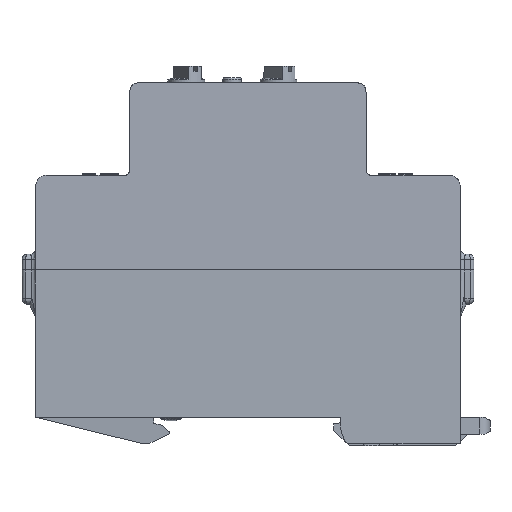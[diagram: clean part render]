
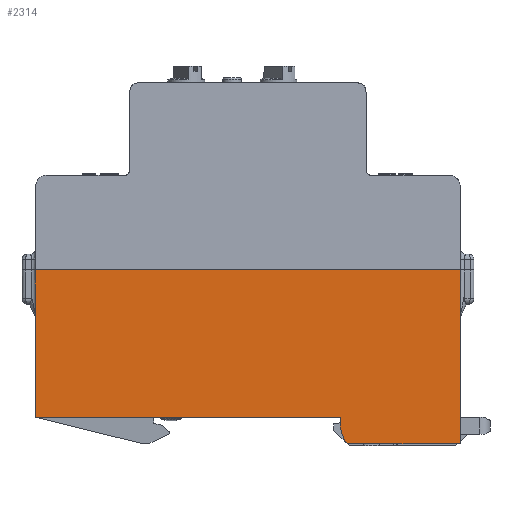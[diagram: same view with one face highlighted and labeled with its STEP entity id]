
A CAD part, left-side view. The second image highlights one B-rep face of the part: STEP entity #2314.
In plain terms, the highlighted planar face has unit normal (-1, 0, -0.006) as drawn and (0, -0.006, -1) by its records, which use the part's own axes.
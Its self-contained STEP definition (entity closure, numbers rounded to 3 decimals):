
#2314=ADVANCED_FACE('',(#30466),#30468,.T.);
#30466=FACE_BOUND('',#30467,.T.);
#30467=EDGE_LOOP('',(#60260,#60261,#60262,#60263,#60264,#60265,#60266,#60267,#60268));
#30468=PLANE('',#30469);
#30469=AXIS2_PLACEMENT_3D('',#30470,#30471,#30472);
#30470=CARTESIAN_POINT('',(-40.35,28.,-17.5));
#30471=DIRECTION('',(0.,-0.006,-1.));
#30472=DIRECTION('',(0.,1.,-0.006));
#60260=ORIENTED_EDGE('',*,*,#78281,.F.);
#60261=ORIENTED_EDGE('',*,*,#78282,.T.);
#60262=ORIENTED_EDGE('',*,*,#78283,.T.);
#60263=ORIENTED_EDGE('',*,*,#78284,.T.);
#60264=ORIENTED_EDGE('',*,*,#77668,.T.);
#60265=ORIENTED_EDGE('',*,*,#78063,.F.);
#60266=ORIENTED_EDGE('',*,*,#77499,.F.);
#60267=ORIENTED_EDGE('',*,*,#78017,.T.);
#60268=ORIENTED_EDGE('',*,*,#77830,.F.);
#77499=EDGE_CURVE('',#86676,#86678,#86679,.T.);
#77668=EDGE_CURVE('',#86999,#86997,#87000,.T.);
#77830=EDGE_CURVE('',#87283,#87285,#87286,.T.);
#78017=EDGE_CURVE('',#86676,#87285,#87606,.T.);
#78063=EDGE_CURVE('',#86678,#86997,#87693,.T.);
#78281=EDGE_CURVE('',#88078,#87283,#88079,.T.);
#78282=EDGE_CURVE('',#88078,#88080,#88081,.T.);
#78283=EDGE_CURVE('',#88080,#88082,#88083,.T.);
#78284=EDGE_CURVE('',#88082,#86999,#88084,.T.);
#86676=VERTEX_POINT('',#102471);
#86678=VERTEX_POINT('',#102475);
#86679=LINE('',#102476,#102477);
#86997=VERTEX_POINT('',#103155);
#86999=VERTEX_POINT('',#103159);
#87000=LINE('',#103160,#103161);
#87283=VERTEX_POINT('',#103771);
#87285=VERTEX_POINT('',#103775);
#87286=LINE('',#103776,#103777);
#87606=LINE('',#104628,#104629);
#87693=LINE('',#104878,#104879);
#88078=VERTEX_POINT('',#105893);
#88079=LINE('',#105894,#105895);
#88080=VERTEX_POINT('',#105897);
#88081=(BOUNDED_CURVE()B_SPLINE_CURVE(3,
(#105898,#105899,#105900,#105901),
.UNSPECIFIED.,.F.,.F.)B_SPLINE_CURVE_WITH_KNOTS((4,4),
(0.,1.),
.UNSPECIFIED.)CURVE()GEOMETRIC_REPRESENTATION_ITEM()RATIONAL_B_SPLINE_CURVE((1.,
0.99,0.99,1.))REPRESENTATION_ITEM(''));
#88082=VERTEX_POINT('',#105902);
#88083=LINE('',#105903,#105904);
#88084=(BOUNDED_CURVE()B_SPLINE_CURVE(3,
(#105906,#105907,#105908,#105909),
.UNSPECIFIED.,.F.,.F.)B_SPLINE_CURVE_WITH_KNOTS((4,4),
(0.,1.),
.UNSPECIFIED.)CURVE()GEOMETRIC_REPRESENTATION_ITEM()RATIONAL_B_SPLINE_CURVE((1.,
0.879,0.879,1.))REPRESENTATION_ITEM(''));
#102471=CARTESIAN_POINT('',(40.35,28.,-17.5));
#102475=CARTESIAN_POINT('',(-40.35,28.,-17.5));
#102476=CARTESIAN_POINT('',(40.35,28.,-17.5));
#102477=VECTOR('',#102478,1.);
#102478=DIRECTION('',(-1.,0.,0.));
#103155=CARTESIAN_POINT('',(-40.35,-5.,-17.31));
#103159=CARTESIAN_POINT('',(-19.292,-5.,-17.31));
#103160=CARTESIAN_POINT('',(-19.292,-5.,-17.31));
#103161=VECTOR('',#103162,1.);
#103162=DIRECTION('',(-1.,0.,0.));
#103771=CARTESIAN_POINT('',(-17.5,0.,-17.339));
#103775=CARTESIAN_POINT('',(40.35,0.,-17.339));
#103776=CARTESIAN_POINT('',(-17.5,0.,-17.339));
#103777=VECTOR('',#103778,1.);
#103778=DIRECTION('',(1.,0.,0.));
#104628=CARTESIAN_POINT('',(40.35,28.,-17.5));
#104629=VECTOR('',#104630,1.);
#104630=DIRECTION('',(0.,-1.,0.006));
#104878=CARTESIAN_POINT('',(-40.35,28.,-17.5));
#104879=VECTOR('',#104880,1.);
#104880=DIRECTION('',(0.,-1.,0.006));
#105893=CARTESIAN_POINT('',(-17.5,-1.824,-17.328));
#105894=CARTESIAN_POINT('',(-17.5,-1.824,-17.328));
#105895=VECTOR('',#105896,1.);
#105896=DIRECTION('',(0.,1.,-0.006));
#105897=CARTESIAN_POINT('',(-17.56,-2.166,-17.326));
#105898=CARTESIAN_POINT('',(-17.5,-1.824,-17.328));
#105899=CARTESIAN_POINT('',(-17.5,-1.941,-17.328));
#105900=CARTESIAN_POINT('',(-17.52,-2.056,-17.327));
#105901=CARTESIAN_POINT('',(-17.56,-2.166,-17.326));
#105902=CARTESIAN_POINT('',(-18.352,-4.342,-17.314));
#105903=CARTESIAN_POINT('',(-17.56,-2.166,-17.326));
#105904=VECTOR('',#105905,1.);
#105905=DIRECTION('',(-0.342,-0.94,0.005));
#105906=CARTESIAN_POINT('',(-18.352,-4.342,-17.314));
#105907=CARTESIAN_POINT('',(-18.501,-4.751,-17.311));
#105908=CARTESIAN_POINT('',(-18.857,-5.,-17.31));
#105909=CARTESIAN_POINT('',(-19.292,-5.,-17.31));
